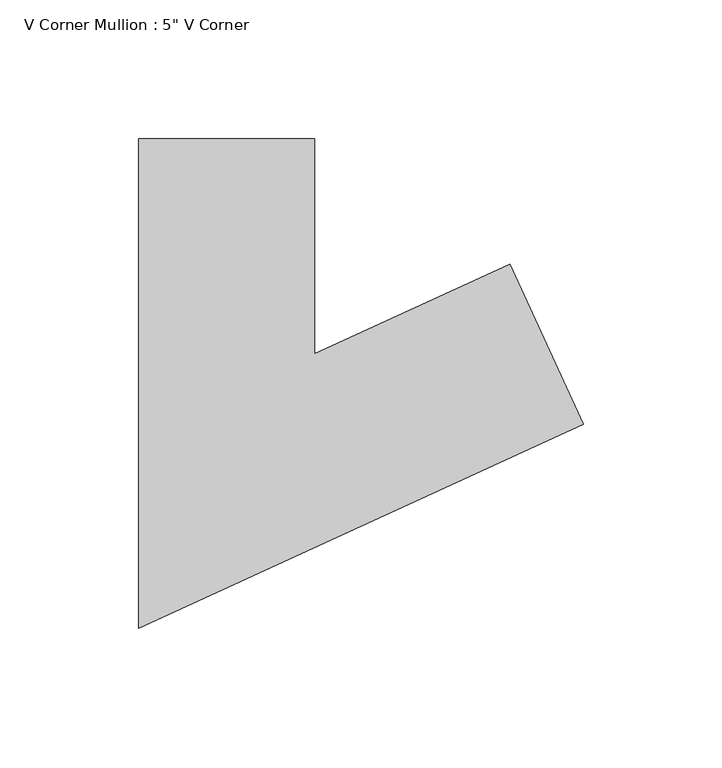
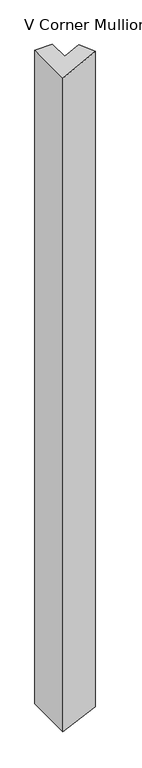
"""IFC4 building model written with IfcOpenShell, lengths in millimetres: member geometry."""

import ifcopenshell
import ifcopenshell.guid

model = None  # the IFC model being written
_history = None  # IfcOwnerHistory: only IFC2X3 demands one
_inside = {}  # id of a spatial element -> (the spatial element, [elements in it])
_under = {}  # id of a project, library or spatial element -> (it, [spatial elements below it])
_declared = {}  # id of a project -> (the project, [libraries it declares])
_typed = {}  # id of a type object -> (the type object, [elements of that type])
_made_of = {}  # id of a material, layer set ... -> (it, [elements and type objects made of it])


def new_model(schema):
    """Start an empty IFC model of exactly this schema.

    Asked for "IFC4X3", IfcOpenShell would pick the latest addendum, in which some entities
    have other attributes; the version numbers below select the first issue.
    IFC2X3 requires an IfcOwnerHistory on every rooted entity: one is made here for all.
    """
    global model, _history
    if schema == "IFC4X3":
        model = ifcopenshell.file(schema_version=(4, 3, 0, 0))
    else:
        model = ifcopenshell.file(schema=schema)
    _inside.clear()
    _under.clear()
    _declared.clear()
    _typed.clear()
    _made_of.clear()
    _history = None
    if model.schema == "IFC2X3":
        org = make("IfcOrganization", Name="unknown")
        user = make(
            "IfcPersonAndOrganization",
            ThePerson=make("IfcPerson", FamilyName="unknown"),
            TheOrganization=org,
        )
        app = make(
            "IfcApplication",
            ApplicationDeveloper=org,
            Version="unknown",
            ApplicationFullName="unknown",
            ApplicationIdentifier="unknown",
        )
        _history = make(
            "IfcOwnerHistory",
            OwningUser=user,
            OwningApplication=app,
            ChangeAction="ADDED",
            CreationDate=0,
        )
    return model


def make(cls, **values):
    """One entity of the class cls with the attributes given. An attribute that is None is left unset."""
    return model.create_entity(
        cls, **{name: value for name, value in values.items() if value is not None}
    )


def rooted(cls, **values):
    """An entity with a GlobalId (a new one), such as an element, a storey or a relation."""
    return make(cls, GlobalId=ifcopenshell.guid.new(), OwnerHistory=_history, **values)


def si_unit(unit_type, name, prefix=None):
    """IfcSIUnit, for example si_unit("LENGTHUNIT", "METRE", prefix="MILLI")."""
    return make("IfcSIUnit", UnitType=unit_type, Prefix=prefix, Name=name)


def assignment(units):
    """IfcUnitAssignment: the units of a project."""
    return None if units is None else make("IfcUnitAssignment", Units=units)


def point(xyz):
    """IfcCartesianPoint."""
    return None if xyz is None else make("IfcCartesianPoint", Coordinates=xyz)


def direction(xyz):
    """IfcDirection."""
    return None if xyz is None else make("IfcDirection", DirectionRatios=xyz)


def frame(location, z_axis=None, x_axis=None):
    """IfcAxis2Placement3D, a coordinate frame: its origin and axes. An axis left out is left unset."""
    return make(
        "IfcAxis2Placement3D",
        Location=point(location),
        Axis=direction(z_axis),
        RefDirection=direction(x_axis),
    )


def origin():
    """The frame at (0, 0, 0) with its axes left unset."""
    return frame((0.0, 0.0, 0.0))


def place(relative_to, where):
    """IfcLocalPlacement: puts the frame where relative to a parent placement (None: the world)."""
    return make(
        "IfcLocalPlacement", PlacementRelTo=relative_to, RelativePlacement=where
    )


def context(
    kind, dimensions, precision=None, world=None, true_north=None, identifier=None
):
    """IfcGeometricRepresentationContext, for example the 3D "Model" context."""
    return make(
        "IfcGeometricRepresentationContext",
        ContextIdentifier=identifier,
        ContextType=kind,
        CoordinateSpaceDimension=dimensions,
        Precision=precision,
        WorldCoordinateSystem=world,
        TrueNorth=true_north,
    )


def project(units=None, contexts=None):
    """IfcProject with its units and contexts."""
    return rooted(
        "IfcProject",
        Name="project",
        RepresentationContexts=contexts,
        UnitsInContext=assignment(units),
    )


def spatial(cls, under=None, at=None, **own):
    """A site, building, storey or space (cls), placed at a placement, below another one or the project."""
    s = rooted(cls, ObjectPlacement=at, **own)
    if under is not None:
        _under.setdefault(under.id(), (under, []))[1].append(s)
    return s


def faces_of(points, faces, orient=None, outer=None):
    """IfcFace entities. A face is a list of loops; a loop is a list of indices into points, from 0.

    orient and outer hold one flag for each loop. By default every Orientation is true, the
    first loop of a face is its IfcFaceOuterBound and the others are IfcFaceBound.
    """
    made = []
    for i, loops in enumerate(faces):
        bounds = []
        for j, loop in enumerate(loops):
            is_outer = j == 0 if outer is None else outer[i][j]
            bounds.append(
                make(
                    "IfcFaceOuterBound" if is_outer else "IfcFaceBound",
                    Bound=make("IfcPolyLoop", Polygon=[points[k] for k in loop]),
                    Orientation=True if orient is None else orient[i][j],
                )
            )
        made.append(make("IfcFace", Bounds=bounds))
    return made


def faceted_brep(points, faces, orient=None, outer=None, voids=None):
    """IfcFacetedBrep: a solid bounded by flat faces; with voids (closed shells), ...WithVoids."""
    shared = [point(p) for p in points]
    hull = make("IfcClosedShell", CfsFaces=faces_of(shared, faces, orient, outer))
    if voids is None:
        return make("IfcFacetedBrep", Outer=hull)
    return make(
        "IfcFacetedBrepWithVoids",
        Outer=hull,
        Voids=[
            make(cls, CfsFaces=faces_of(shared, fs, o, b)) for cls, fs, o, b in voids
        ],
    )


def shape(context_of_items, identifier, shape_type, items):
    """IfcShapeRepresentation: the items that make up one representation, for example the "Body"."""
    return make(
        "IfcShapeRepresentation",
        ContextOfItems=context_of_items,
        RepresentationIdentifier=identifier,
        RepresentationType=shape_type,
        Items=items,
    )


def source(mapping_origin, context_of_items, identifier, shape_type, items):
    """IfcRepresentationMap: a shape defined once, which mapped items show again and again."""
    return make(
        "IfcRepresentationMap",
        MappingOrigin=mapping_origin,
        MappedRepresentation=shape(context_of_items, identifier, shape_type, items),
    )


def transform(
    local_origin,
    x_axis=None,
    y_axis=None,
    z_axis=None,
    scale=None,
    scale2=None,
    scale3=None,
    uniform=True,
):
    """IfcCartesianTransformationOperator3D, or its non-uniform kind. x_axis, y_axis, z_axis: its Axis1, 2, 3."""
    if uniform:
        return make(
            "IfcCartesianTransformationOperator3D",
            Axis1=direction(x_axis),
            Axis2=direction(y_axis),
            LocalOrigin=point(local_origin),
            Scale=scale,
            Axis3=direction(z_axis),
        )
    return make(
        "IfcCartesianTransformationOperator3DnonUniform",
        Axis1=direction(x_axis),
        Axis2=direction(y_axis),
        LocalOrigin=point(local_origin),
        Scale=scale,
        Axis3=direction(z_axis),
        Scale2=scale2,
        Scale3=scale3,
    )


def mapped(mapping_source, mapping_target):
    """IfcMappedItem: shows the shape of a source again, moved by a transform."""
    return make(
        "IfcMappedItem", MappingSource=mapping_source, MappingTarget=mapping_target
    )


def made_of(thing, what):
    """Note that an element or type object is made of a material, layer set ...; save() writes the relation."""
    if what is not None:
        _made_of.setdefault(what.id(), (what, []))[1].append(thing)
    return thing


def element(
    cls,
    number,
    at=None,
    inside=None,
    cuts=None,
    type_object=None,
    material=None,
    context=None,
    identifier="Body",
    shape_type=None,
    held_by="IfcProductDefinitionShape",
    body=None,
    shapes=None,
    **own,
):
    """One element of the class cls, such as IfcWall. Its Tag is "e" and its number.

    at: its placement. inside: the storey or other place that contains it. cuts: it is an
    opening in that element (IfcRelVoidsElement). A single representation is given by context,
    identifier, shape_type and body (its items); several are given by shapes. held_by: the class
    of the entity that holds the representations. save() writes the other relations.
    """
    e = rooted(cls, Tag="e%d" % number, ObjectPlacement=at, **own)
    if body is not None:
        shapes = [shape(context, identifier, shape_type, body)]
    if shapes is not None:
        e.Representation = make(held_by, Representations=shapes)
    if inside is not None:
        _inside.setdefault(inside.id(), (inside, []))[1].append(e)
    if cuts is not None:
        rooted(
            "IfcRelVoidsElement", RelatingBuildingElement=cuts, RelatedOpeningElement=e
        )
    if type_object is not None:
        _typed.setdefault(type_object.id(), (type_object, []))[1].append(e)
    return made_of(e, material)


def aggregate(whole, parts):
    """IfcRelAggregates: a whole, such as a stair, and the parts it consists of."""
    return rooted("IfcRelAggregates", RelatingObject=whole, RelatedObjects=parts)


def save(model, path):
    """Write the relations noted so far, then the file.

    IfcRelAggregates (storeys below a building ...), IfcRelContainedInSpatialStructure (elements
    in a storey), IfcRelDefinesByType, IfcRelAssociatesMaterial and IfcRelDeclares: one each for
    every whole, place, type object, material and project.
    """
    for whole, parts in _under.values():
        aggregate(whole, parts)
    for where, things in _inside.values():
        rooted(
            "IfcRelContainedInSpatialStructure",
            RelatedElements=things,
            RelatingStructure=where,
        )
    for kind, things in _typed.values():
        rooted("IfcRelDefinesByType", RelatedObjects=things, RelatingType=kind)
    for what, things in _made_of.values():
        rooted("IfcRelAssociatesMaterial", RelatedObjects=things, RelatingMaterial=what)
    for by, libraries in _declared.values():
        rooted("IfcRelDeclares", RelatingContext=by, RelatedDefinitions=libraries)
    model.write(path)


def member_fc3f467e(model_context):
    return source(origin(), model_context, "Body", "Brep", [
        faceted_brep([(61.49523, 18.2208415, 1.2300022), (87.9205542, -39.5195451, 1.7585507), (87.9205542, -39.5195451, -2519.1898881), (61.49523, 18.2208415, -2518.2284304), (-9.0228811, -14.0523047, -0.1804719), (-9.0228811, -14.0523047, -2515.6627031), (-9.0228811, 63.5, -0.1804719), (-9.0228811, 63.5, -2515.6627031), (-72.5228811, 63.5, -1.4505728), (-72.5228811, 63.5, -2513.3523223), (-72.5228811, -112.9476953, -1.4505728), (-72.5228811, -112.9476953, -2513.3523223)], [[[0, 1, 2, 3]], [[4, 0, 3, 5]], [[6, 4, 5, 7]], [[8, 6, 7, 9]], [[10, 8, 9, 11]], [[1, 10, 11, 2]], [[1, 0, 4, 6, 8, 10]], [[2, 11, 9, 7, 5, 3]]]),
    ])


if __name__ == "__main__":
    model = new_model("IFC4")
    model_context = context("Model", 3, world=origin())
    ifc_project = project(units=[si_unit("LENGTHUNIT", "METRE", prefix="MILLI")], contexts=[model_context])
    site = spatial("IfcSite", under=ifc_project)
    building = spatial("IfcBuilding", under=site)
    placement = place(None, origin())
    member_shape = member_fc3f467e(model_context)
    element("IfcMember", 1, ObjectType="V Corner Mullion : 5\" V Corner", at=placement, inside=building, context=model_context, shape_type="MappedRepresentation", body=[
        mapped(member_shape, transform((0.0, 0.0, 0.0), x_axis=(1.0, 0.0, 0.0), y_axis=(0.0, 1.0, 0.0), z_axis=(0.0, 0.0, 1.0))),
    ])
    save(model, "model.ifc")
